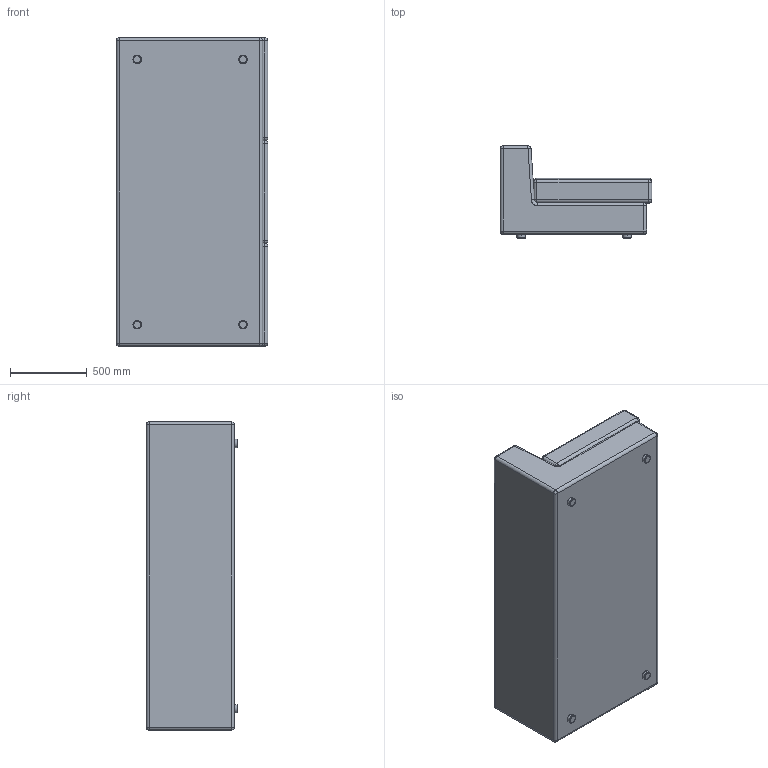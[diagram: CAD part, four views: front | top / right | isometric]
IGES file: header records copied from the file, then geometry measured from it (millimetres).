
Start section: SolidWorks IGES file using NURBS representation for surfaces
Global section: file name: G:\VICCARBE\PRODUCTOS\18-BERRY\04-MODELADOS (PLANOS)\SOLIDWORKS\ELEMENTOS\VICCARBE_Berry_B4.IGS; native system: SolidWorks 2009; preprocessor: SolidWorks 2009; author: RUBEN; date: 110902.094400; units: millimetre
Bounding box: 989.01 x 598 x 2010 mm (x, y, z)
Surface area: 10796935.7 mm2 (no closed solid volume)
Topology: 0 solids, 0 shells, 140 faces, 1078 edges, 1044 vertices
Faces by surface type: bspline 140
